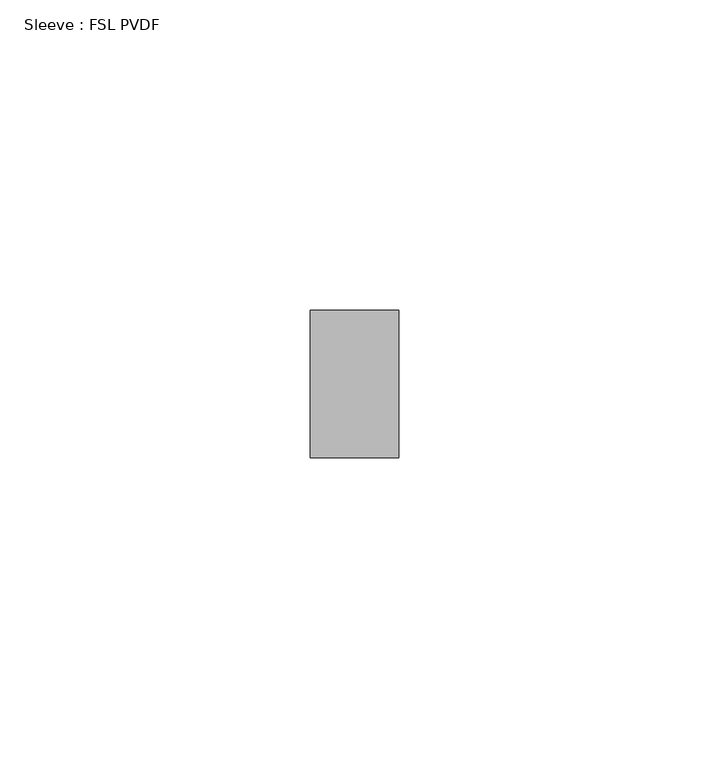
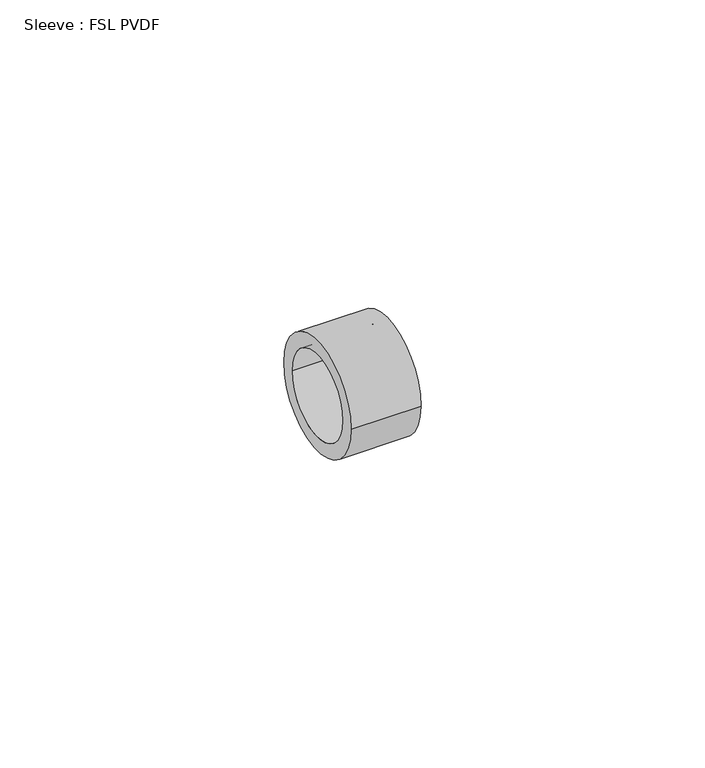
"""IFC4 building model written with IfcOpenShell, lengths in millimetres: pipe fitting geometry, Sleeve : FSL PVDF."""

from ifc_helpers import new_model, si_unit, point, frame, origin, origin_2d, place, context, project, spatial, circle_curve, trimmed, segment, composite_curve, outline, extrude, source, transform, mapped, element, save


def sleeve_fsl_pvdf_957fc3e3(model_context):
    return source(origin(), model_context, "Body", "SweptSolid", [
        extrude(outline(composite_curve([segment(trimmed(circle_curve(origin_2d(), 11.85), [point((-11.85, 0.0))], [point((11.85, 0.0))], False, "CARTESIAN"), True, "CONTINUOUS"), segment(trimmed(circle_curve(origin_2d(), 11.85), [point((11.85, 0.0))], [point((-11.85, 0.0))], False, "CARTESIAN"), True, "CONTINUOUS")], self_intersect=False), holes=[composite_curve([segment(trimmed(circle_curve(origin_2d(), 8.85), [point((-8.85, 0.0))], [point((8.85, 0.0))], True, "CARTESIAN"), True, "CONTINUOUS"), segment(trimmed(circle_curve(origin_2d(), 8.85), [point((8.85, 0.0))], [point((-8.85, 0.0))], True, "CARTESIAN"), True, "CONTINUOUS")], self_intersect=False)]), frame((0.0, 0.0, 0.0), z_axis=(1.0, 0.0, 0.0), x_axis=(0.0, 1.0, 0.0)), (0.0, 0.0, 1.0), 14.2),
    ])


if __name__ == "__main__":
    model = new_model("IFC4")
    model_context = context("Model", 3, world=origin())
    ifc_project = project(units=[si_unit("LENGTHUNIT", "METRE", prefix="MILLI")], contexts=[model_context])
    site = spatial("IfcSite", under=ifc_project)
    building = spatial("IfcBuilding", under=site)
    placement = place(None, origin())
    sleeve_fsl_pvdf_shape = sleeve_fsl_pvdf_957fc3e3(model_context)
    element("IfcPipeFitting", 1, ObjectType="Sleeve : FSL PVDF", at=placement, inside=building, context=model_context, shape_type="MappedRepresentation", body=[
        mapped(sleeve_fsl_pvdf_shape, transform((0.0, 0.0, 0.0), x_axis=(1.0, 0.0, 0.0), y_axis=(0.0, 1.0, 0.0), z_axis=(0.0, 0.0, 1.0))),
    ])
    save(model, "model.ifc")
